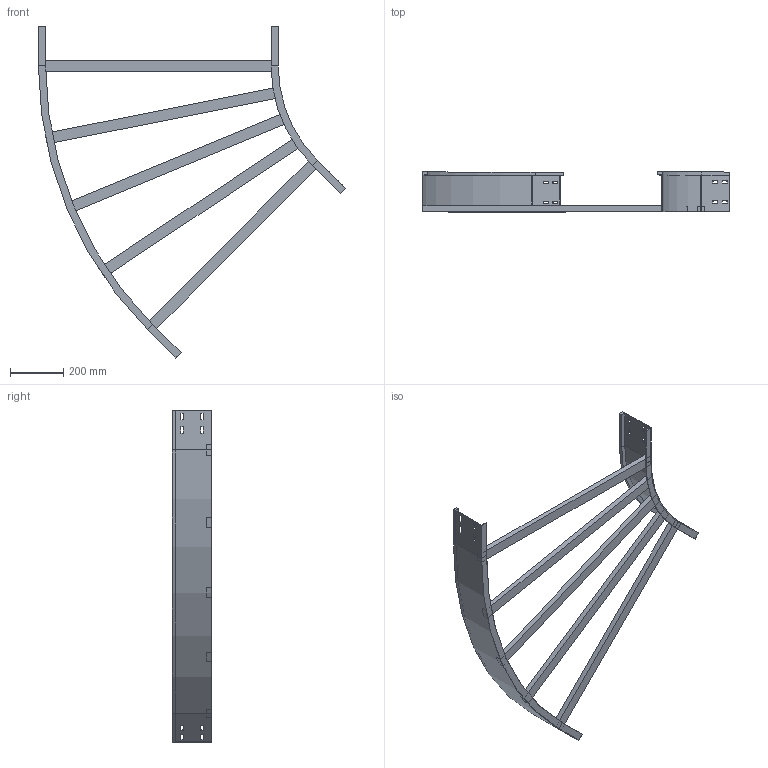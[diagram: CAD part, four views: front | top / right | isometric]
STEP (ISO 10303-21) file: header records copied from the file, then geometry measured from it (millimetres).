
FILE_DESCRIPTION (( 'STEP AP214' ), '1' );
FILE_NAME ('11J5F900.step', '2025-02-21T16:24:30', ( '' ), ( '' ), 'SwSTEP 2.0', 'SolidWorks 2023', '' );
FILE_SCHEMA (( 'AUTOMOTIVE_DESIGN' ));
Length unit declared in the file: millimetre
Products named in the file (4): 11J5F900; LONGH.ESTERNO 45°_H150_R500+900; LONGH.INTERNO 45°_H150_R500; TRAVERSINO_900
Assembly tree (7 placements, depth 2):
  11J5F900
    LONGH.INTERNO 45°_H150_R500
    LONGH.ESTERNO 45°_H150_R500+900
    TRAVERSINO_900  x5
Bounding box: 1152.51 x 150 x 1246.02 mm (x, y, z)
Volume: 4755603 mm3; surface area: 1354935 mm2
Topology: 7 solids, 7 shells, 146 faces, 364 edges, 232 vertices
Faces by surface type: plane 138, cylinder 8
Entity records: 3837 total; most frequent: CARTESIAN_POINT 648, ORIENTED_EDGE 632, DIRECTION 596, EDGE_CURVE 316, LINE 300, VECTOR 300, VERTEX_POINT 200, EDGE_LOOP 154
